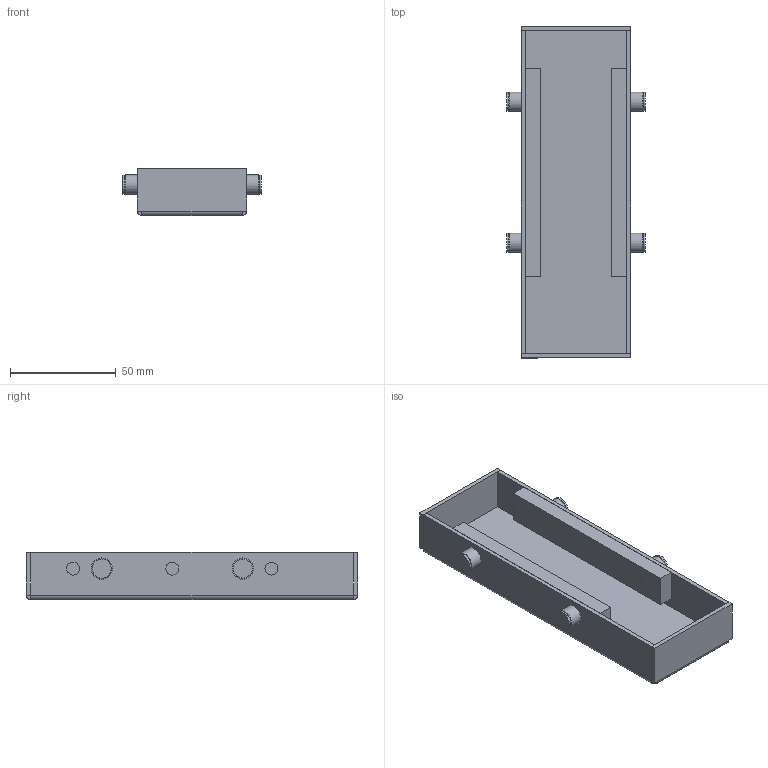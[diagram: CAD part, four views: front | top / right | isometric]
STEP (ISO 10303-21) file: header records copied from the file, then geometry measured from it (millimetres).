
FILE_DESCRIPTION((''),'2;1');
FILE_NAME('C:\old_Drawings\shrinkwrapped website .stp files\561359-STP.stp','2011-05-23T13:50:56',('GaryRobinson'),(''),'Autodesk Inventor 2011','Autodesk Inventor 2011','');
FILE_SCHEMA(('CONFIG_CONTROL_DESIGN'));
Length unit declared in the file: inch
Products named in the file (1): 561359-STP
Bounding box: 65.62 x 156.84 x 22.23 mm (x, y, z)
Surface area: 46309.5 mm2 (no closed solid volume)
Topology: 0 solids, 17 shells, 140 faces, 252 edges, 154 vertices
Faces by surface type: plane 78, cylinder 34, cone 28
Full cylindrical faces by diameter (mm): 2.845 x6, 6.353 x4, 6.985 x4, 9 x4, 9.144 x4, 10.084 x4
Entity records: 3317 total; most frequent: DIRECTION 574, CARTESIAN_POINT 489, ORIENTED_EDGE 392, AXIS2_PLACEMENT_3D 237, EDGE_LOOP 210, EDGE_CURVE 196, VERTEX_POINT 152, FACE_OUTER_BOUND 140
